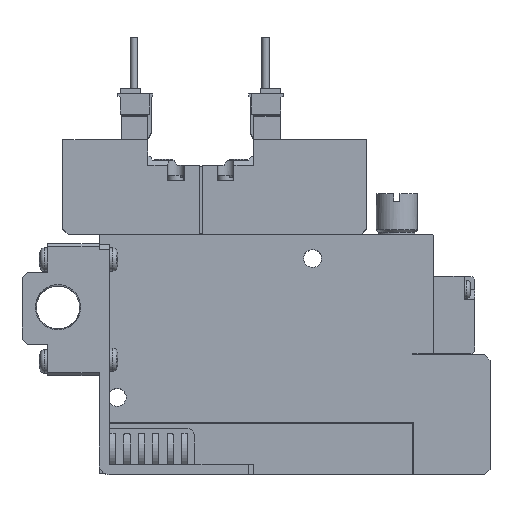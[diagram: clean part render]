
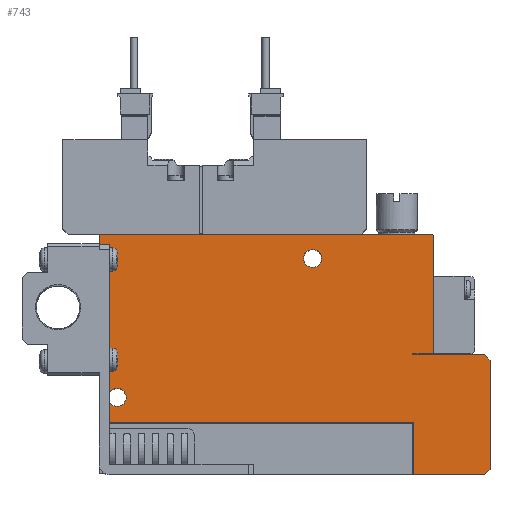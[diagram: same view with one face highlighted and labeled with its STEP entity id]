
A CAD part, top view. The second image highlights one B-rep face of the part: STEP entity #743.
In plain terms, the highlighted planar face has unit normal (0, 0, 1).
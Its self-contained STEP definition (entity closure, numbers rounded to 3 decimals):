
#743=ADVANCED_FACE('',(#1721,#1722,#1723),#1724,.F.);
#1721=FACE_OUTER_BOUND('',#3131,.T.);
#1722=FACE_BOUND('',#3132,.T.);
#1723=FACE_BOUND('',#3133,.T.);
#1724=PLANE('',#3134);
#3131=EDGE_LOOP('',(#6411,#6412,#6413,#6414,#6415,#6416,#6417,#6418,#6419,#6420,#6421,#6422,#6423,#6424));
#3132=EDGE_LOOP('',(#6425));
#3133=EDGE_LOOP('',(#6426));
#3134=AXIS2_PLACEMENT_3D('',#6427,#6428,#6429);
#6411=ORIENTED_EDGE('',*,*,#9755,.T.);
#6412=ORIENTED_EDGE('',*,*,#9756,.F.);
#6413=ORIENTED_EDGE('',*,*,#9757,.F.);
#6414=ORIENTED_EDGE('',*,*,#9698,.T.);
#6415=ORIENTED_EDGE('',*,*,#9758,.T.);
#6416=ORIENTED_EDGE('',*,*,#9759,.T.);
#6417=ORIENTED_EDGE('',*,*,#9760,.T.);
#6418=ORIENTED_EDGE('',*,*,#9761,.T.);
#6419=ORIENTED_EDGE('',*,*,#9762,.T.);
#6420=ORIENTED_EDGE('',*,*,#9746,.T.);
#6421=ORIENTED_EDGE('',*,*,#9763,.T.);
#6422=ORIENTED_EDGE('',*,*,#9764,.T.);
#6423=ORIENTED_EDGE('',*,*,#9765,.T.);
#6424=ORIENTED_EDGE('',*,*,#9663,.T.);
#6425=ORIENTED_EDGE('',*,*,#9766,.F.);
#6426=ORIENTED_EDGE('',*,*,#9604,.F.);
#6427=CARTESIAN_POINT('',(0.0,0.0,5.0));
#6428=DIRECTION('',(0.0,0.0,-1.0));
#6429=DIRECTION('',(0.0,-1.0,0.0));
#9604=EDGE_CURVE('',#11671,#11671,#11672,.T.);
#9663=EDGE_CURVE('',#11780,#11778,#11781,.T.);
#9698=EDGE_CURVE('',#11838,#11842,#11844,.T.);
#9746=EDGE_CURVE('',#11930,#11928,#11931,.T.);
#9755=EDGE_CURVE('',#11778,#11945,#11946,.T.);
#9756=EDGE_CURVE('',#11947,#11945,#11948,.T.);
#9757=EDGE_CURVE('',#11838,#11947,#11949,.T.);
#9758=EDGE_CURVE('',#11842,#11950,#11951,.T.);
#9759=EDGE_CURVE('',#11950,#11952,#11953,.T.);
#9760=EDGE_CURVE('',#11952,#11954,#11955,.T.);
#9761=EDGE_CURVE('',#11954,#11956,#11957,.T.);
#9762=EDGE_CURVE('',#11956,#11930,#11958,.T.);
#9763=EDGE_CURVE('',#11928,#11959,#11960,.T.);
#9764=EDGE_CURVE('',#11959,#11961,#11962,.T.);
#9765=EDGE_CURVE('',#11961,#11780,#11963,.T.);
#9766=EDGE_CURVE('',#11964,#11964,#11965,.T.);
#11671=VERTEX_POINT('',#15071);
#11672=CIRCLE('',#15072,1.75);
#11778=VERTEX_POINT('',#15246);
#11780=VERTEX_POINT('',#15249);
#11781=LINE('',#15250,#15251);
#11838=VERTEX_POINT('',#15347);
#11842=VERTEX_POINT('',#15353);
#11844=LINE('',#15356,#15357);
#11928=VERTEX_POINT('',#15518);
#11930=VERTEX_POINT('',#15521);
#11931=LINE('',#15522,#15523);
#11945=VERTEX_POINT('',#15545);
#11946=LINE('',#15546,#15547);
#11947=VERTEX_POINT('',#15548);
#11948=LINE('',#15549,#15550);
#11949=LINE('',#15551,#15552);
#11950=VERTEX_POINT('',#15553);
#11951=LINE('',#15554,#15555);
#11952=VERTEX_POINT('',#15556);
#11953=LINE('',#15557,#15558);
#11954=VERTEX_POINT('',#15559);
#11955=LINE('',#15560,#15561);
#11956=VERTEX_POINT('',#15562);
#11957=LINE('',#15563,#15564);
#11958=LINE('',#15565,#15566);
#11959=VERTEX_POINT('',#15567);
#11960=LINE('',#15568,#15569);
#11961=VERTEX_POINT('',#15570);
#11962=LINE('',#15571,#15572);
#11963=LINE('',#15573,#15574);
#11964=VERTEX_POINT('',#15575);
#11965=CIRCLE('',#15576,1.75);
#15071=CARTESIAN_POINT('',(43.25,42.0,5.0));
#15072=AXIS2_PLACEMENT_3D('',#18845,#18846,#18847);
#15246=CARTESIAN_POINT('',(0.0,46.4,5.0));
#15249=CARTESIAN_POINT('',(0.2,46.6,5.0));
#15250=CARTESIAN_POINT('',(0.2,46.6,5.0));
#15251=VECTOR('',#18931,1.0);
#15347=CARTESIAN_POINT('',(61.1,0.0,5.0));
#15353=CARTESIAN_POINT('',(75.0,0.0,5.0));
#15356=CARTESIAN_POINT('',(0.0,0.0,5.0));
#15357=VECTOR('',#18982,1.0);
#15518=CARTESIAN_POINT('',(65.0,23.5,5.0));
#15521=CARTESIAN_POINT('',(61.0,23.5,5.0));
#15522=CARTESIAN_POINT('',(61.0,23.5,5.0));
#15523=VECTOR('',#19047,1.0);
#15545=CARTESIAN_POINT('',(0.0,10.1,5.0));
#15546=CARTESIAN_POINT('',(0.0,46.4,5.0));
#15547=VECTOR('',#19056,1.0);
#15548=CARTESIAN_POINT('',(61.1,10.1,5.0));
#15549=CARTESIAN_POINT('',(61.1,10.1,5.0));
#15550=VECTOR('',#19057,1.0);
#15551=CARTESIAN_POINT('',(61.1,0.0,5.0));
#15552=VECTOR('',#19058,1.0);
#15553=CARTESIAN_POINT('',(76.0,1.0,5.0));
#15554=CARTESIAN_POINT('',(75.0,0.0,5.0));
#15555=VECTOR('',#19059,1.0);
#15556=CARTESIAN_POINT('',(76.0,22.25,5.0));
#15557=CARTESIAN_POINT('',(76.0,1.0,5.0));
#15558=VECTOR('',#19060,1.0);
#15559=CARTESIAN_POINT('',(75.0,23.25,5.0));
#15560=CARTESIAN_POINT('',(76.0,22.25,5.0));
#15561=VECTOR('',#19061,1.0);
#15562=CARTESIAN_POINT('',(61.0,23.25,5.0));
#15563=CARTESIAN_POINT('',(75.0,23.25,5.0));
#15564=VECTOR('',#19062,1.0);
#15565=CARTESIAN_POINT('',(61.0,23.25,5.0));
#15566=VECTOR('',#19063,1.0);
#15567=CARTESIAN_POINT('',(65.0,46.4,5.0));
#15568=CARTESIAN_POINT('',(65.0,23.5,5.0));
#15569=VECTOR('',#19064,1.0);
#15570=CARTESIAN_POINT('',(64.8,46.6,5.0));
#15571=CARTESIAN_POINT('',(65.0,46.4,5.0));
#15572=VECTOR('',#19065,1.0);
#15573=CARTESIAN_POINT('',(64.8,46.6,5.0));
#15574=VECTOR('',#19066,1.0);
#15575=CARTESIAN_POINT('',(5.25,15.0,5.0));
#15576=AXIS2_PLACEMENT_3D('',#19067,#19068,#19069);
#18845=CARTESIAN_POINT('',(41.5,42.0,5.0));
#18846=DIRECTION('',(0.0,0.0,1.0));
#18847=DIRECTION('',(1.0,0.0,0.0));
#18931=DIRECTION('',(-0.707,-0.707,0.0));
#18982=DIRECTION('',(1.0,0.0,0.0));
#19047=DIRECTION('',(1.0,0.,0.0));
#19056=DIRECTION('',(0.0,-1.0,0.0));
#19057=DIRECTION('',(-1.0,0.0,0.0));
#19058=DIRECTION('',(0.0,1.0,0.0));
#19059=DIRECTION('',(0.707,0.707,0.0));
#19060=DIRECTION('',(0.0,1.0,0.0));
#19061=DIRECTION('',(-0.707,0.707,0.0));
#19062=DIRECTION('',(-1.0,0.0,0.0));
#19063=DIRECTION('',(0.0,1.0,0.0));
#19064=DIRECTION('',(0.0,1.0,0.0));
#19065=DIRECTION('',(-0.707,0.707,0.0));
#19066=DIRECTION('',(-1.0,0.0,0.0));
#19067=CARTESIAN_POINT('',(3.5,15.0,5.0));
#19068=DIRECTION('',(0.0,0.0,1.0));
#19069=DIRECTION('',(1.0,0.0,0.0));
